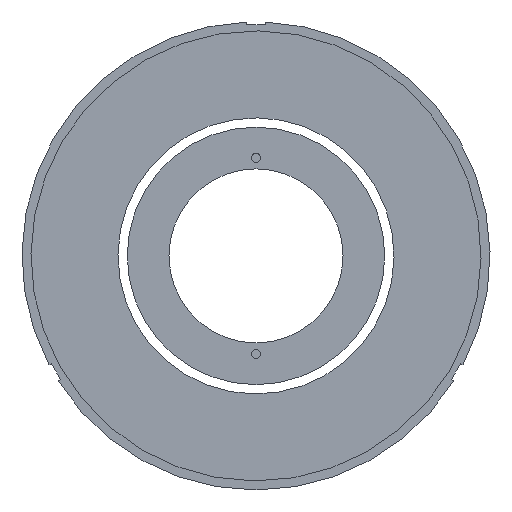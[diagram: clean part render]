
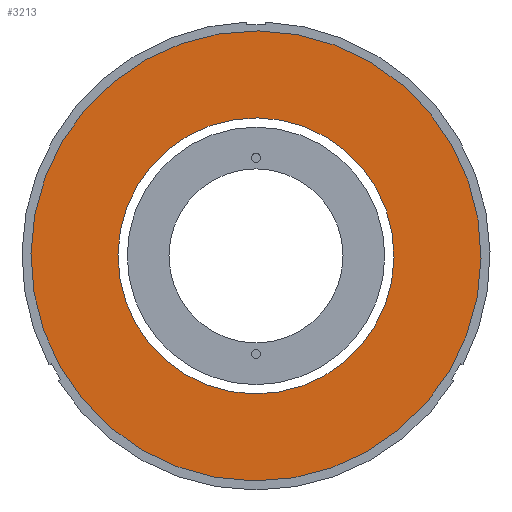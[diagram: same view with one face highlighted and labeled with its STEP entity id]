
A CAD part, front view. The second image highlights one B-rep face of the part: STEP entity #3213.
In plain terms, the highlighted planar face has unit normal (0, -1, 0).
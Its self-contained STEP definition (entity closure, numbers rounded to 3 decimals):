
#5 = CARTESIAN_POINT ( 'NONE',  ( 9.752, 10.586, 34.813 ) ) ;
#15 = CARTESIAN_POINT ( 'NONE',  ( 2.877, 10.586, -2.051 ) ) ;
#138 = DIRECTION ( 'NONE',  ( 0., 1., 0. ) ) ;
#269 = FACE_BOUND ( 'NONE', #2103, .T. ) ;
#320 = VERTEX_POINT ( 'NONE', #2767 ) ;
#748 = AXIS2_PLACEMENT_3D ( 'NONE', #2893, #1191, #3398 ) ;
#832 = DIRECTION ( 'NONE',  ( -0.983, 0., 0.183 ) ) ;
#850 = AXIS2_PLACEMENT_3D ( 'NONE', #5, #1370, #1080 ) ;
#875 = ORIENTED_EDGE ( 'NONE', *, *, #2789, .T. ) ;
#953 = VERTEX_POINT ( 'NONE', #1663 ) ;
#1019 = AXIS2_PLACEMENT_3D ( 'NONE', #2792, #1944, #832 ) ;
#1080 = DIRECTION ( 'NONE',  ( -0.183, 0., -0.983 ) ) ;
#1086 = AXIS2_PLACEMENT_3D ( 'NONE', #3122, #138, #2851 ) ;
#1115 = PLANE ( 'NONE',  #1019 ) ;
#1191 = DIRECTION ( 'NONE',  ( 0., 1., 0. ) ) ;
#1227 = ORIENTED_EDGE ( 'NONE', *, *, #2423, .F. ) ;
#1370 = DIRECTION ( 'NONE',  ( 0., 1., 0. ) ) ;
#1395 = VERTEX_POINT ( 'NONE', #15 ) ;
#1480 = VERTEX_POINT ( 'NONE', #3306 ) ;
#1607 = AXIS2_PLACEMENT_3D ( 'NONE', #2243, #3349, #2891 ) ;
#1663 = CARTESIAN_POINT ( 'NONE',  ( 16.627, 10.586, 71.678 ) ) ;
#1738 = ORIENTED_EDGE ( 'NONE', *, *, #2420, .F. ) ;
#1944 = DIRECTION ( 'NONE',  ( 0., 1., 0. ) ) ;
#2103 = EDGE_LOOP ( 'NONE', ( #875, #3211 ) ) ;
#2243 = CARTESIAN_POINT ( 'NONE',  ( 9.752, 10.586, 34.813 ) ) ;
#2293 = CIRCLE ( 'NONE', #1607, 23. ) ;
#2420 = EDGE_CURVE ( 'NONE', #1395, #953, #2468, .T. ) ;
#2423 = EDGE_CURVE ( 'NONE', #953, #1395, #2760, .T. ) ;
#2468 = CIRCLE ( 'NONE', #748, 37.5 ) ;
#2552 = EDGE_LOOP ( 'NONE', ( #1227, #1738 ) ) ;
#2626 = CIRCLE ( 'NONE', #850, 23. ) ;
#2760 = CIRCLE ( 'NONE', #1086, 37.5 ) ;
#2767 = CARTESIAN_POINT ( 'NONE',  ( 13.969, 10.586, 57.424 ) ) ;
#2789 = EDGE_CURVE ( 'NONE', #320, #1480, #2293, .T. ) ;
#2792 = CARTESIAN_POINT ( 'NONE',  ( 9.752, 10.586, 34.813 ) ) ;
#2851 = DIRECTION ( 'NONE',  ( -0.183, 0., -0.983 ) ) ;
#2891 = DIRECTION ( 'NONE',  ( -0.183, 0., -0.983 ) ) ;
#2893 = CARTESIAN_POINT ( 'NONE',  ( 9.752, 10.586, 34.813 ) ) ;
#3077 = FACE_OUTER_BOUND ( 'NONE', #2552, .T. ) ;
#3122 = CARTESIAN_POINT ( 'NONE',  ( 9.752, 10.586, 34.813 ) ) ;
#3170 = EDGE_CURVE ( 'NONE', #1480, #320, #2626, .T. ) ;
#3211 = ORIENTED_EDGE ( 'NONE', *, *, #3170, .T. ) ;
#3213 = ADVANCED_FACE ( 'NONE', ( #269, #3077 ), #1115, .F. ) ;
#3306 = CARTESIAN_POINT ( 'NONE',  ( 5.535, 10.586, 12.203 ) ) ;
#3349 = DIRECTION ( 'NONE',  ( 0., 1., 0. ) ) ;
#3398 = DIRECTION ( 'NONE',  ( -0.183, 0., -0.983 ) ) ;
